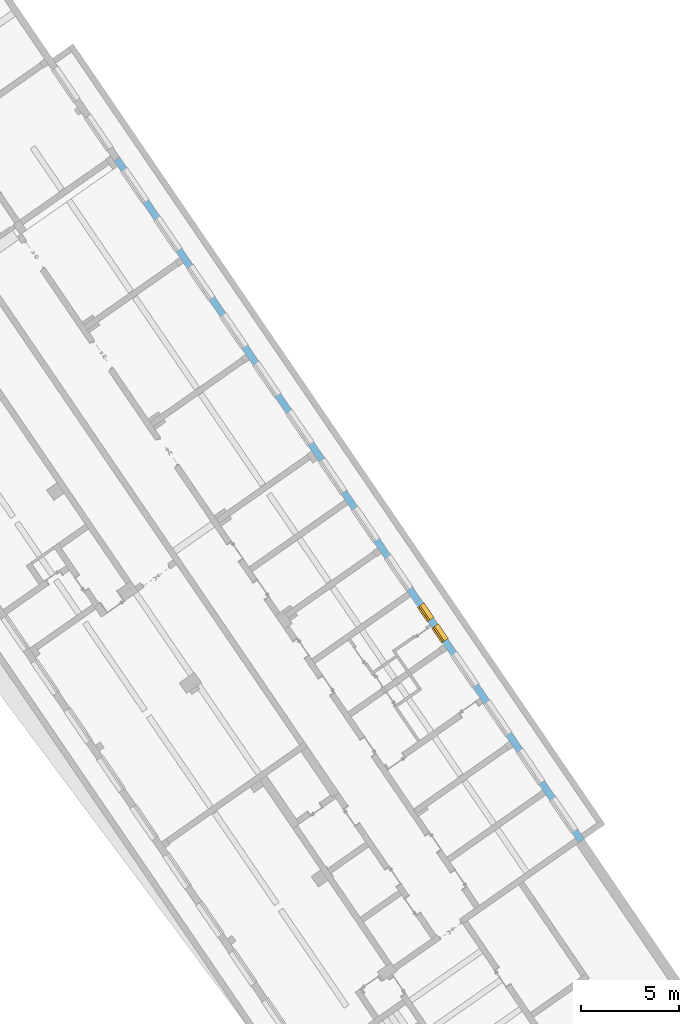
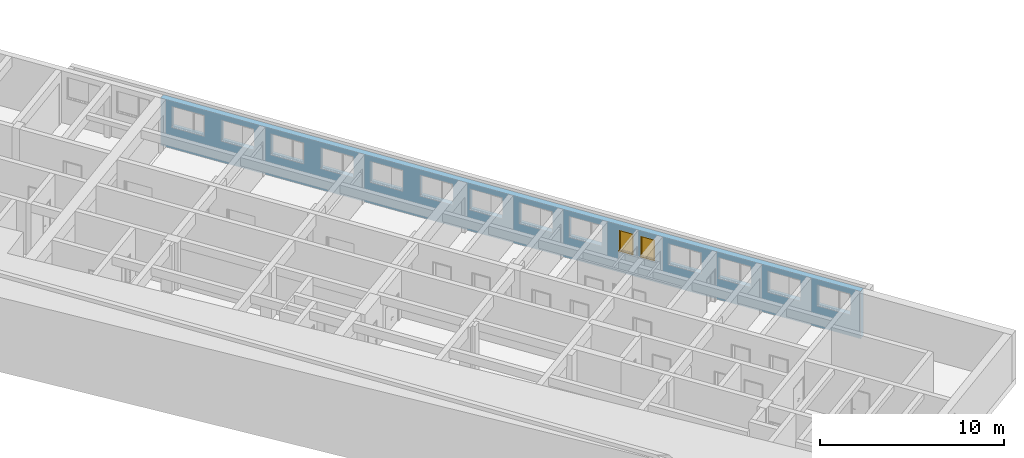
# One storey, part 57 of 112: 2 windows, 15 openings, plus 1 element that does not belong to this part.
"""IFC2X3 building model written with IfcOpenShell, lengths in millimetres."""

from ifc_helpers import new_model, entity, si_unit, converted_unit, derived_unit, direction, frame, frame_2d, origin, place, context, subcontext, project, spatial, polyline, rectangle, outline, extrude, faceted_brep, source, transform, mapped, material, material_list, layer, layer_set, layer_usage, type_object, type_shapes, element, fill, save


model = new_model("IFC2X3")

# Units and contexts
model_context = context("Model", 3, precision=0.01, world=origin(), true_north=direction((6.123031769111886e-17, 1.0)))
body_context = subcontext(model_context, "Body", "Model", "MODEL_VIEW")
ifc_project = project(units=[si_unit("LENGTHUNIT", "METRE", prefix="MILLI"), si_unit("AREAUNIT", "SQUARE_METRE"), si_unit("VOLUMEUNIT", "CUBIC_METRE"), converted_unit("PLANEANGLEUNIT", "DEGREE", entity("IfcRatioMeasure", 0.017453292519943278), si_unit("PLANEANGLEUNIT", "RADIAN"), dimensions=[0, 0, 0, 0, 0, 0, 0]), si_unit("MASSUNIT", "GRAM", prefix="KILO"), derived_unit("MASSDENSITYUNIT", [(si_unit("MASSUNIT", "GRAM", prefix="KILO"), 1), (si_unit("LENGTHUNIT", "METRE"), -3)]), derived_unit("MOMENTOFINERTIAUNIT", [(si_unit("LENGTHUNIT", "METRE"), 4)]), si_unit("TIMEUNIT", "SECOND"), si_unit("FREQUENCYUNIT", "HERTZ"), si_unit("THERMODYNAMICTEMPERATUREUNIT", "DEGREE_CELSIUS"), derived_unit("THERMALTRANSMITTANCEUNIT", [(si_unit("MASSUNIT", "GRAM", prefix="KILO"), 1), (si_unit("THERMODYNAMICTEMPERATUREUNIT", "KELVIN"), -1), (si_unit("TIMEUNIT", "SECOND"), -3)]), derived_unit("THERMALCONDUCTANCEUNIT", [(si_unit("MASSUNIT", "GRAM", prefix="KILO"), 1), (si_unit("LENGTHUNIT", "METRE"), 1), (si_unit("THERMODYNAMICTEMPERATUREUNIT", "KELVIN"), -1), (si_unit("TIMEUNIT", "SECOND"), -3)]), derived_unit("VOLUMETRICFLOWRATEUNIT", [(si_unit("LENGTHUNIT", "METRE"), 3), (si_unit("TIMEUNIT", "SECOND"), -1)]), derived_unit("MASSFLOWRATEUNIT", [(si_unit("MASSUNIT", "GRAM", prefix="KILO"), 1), (si_unit("TIMEUNIT", "SECOND"), -1)]), derived_unit("ROTATIONALFREQUENCYUNIT", [(si_unit("TIMEUNIT", "SECOND"), -1)]), si_unit("ELECTRICCURRENTUNIT", "AMPERE"), si_unit("ELECTRICVOLTAGEUNIT", "VOLT"), si_unit("POWERUNIT", "WATT"), converted_unit("FORCEUNIT", "KIP", entity("IfcRatioMeasure", 2.088543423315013e-05), si_unit("FORCEUNIT", "NEWTON"), dimensions=[1, 1, -2, 0, 0, 0, 0]), si_unit("ILLUMINANCEUNIT", "LUX"), si_unit("LUMINOUSFLUXUNIT", "LUMEN"), si_unit("LUMINOUSINTENSITYUNIT", "CANDELA"), derived_unit("USERDEFINED", [(si_unit("MASSUNIT", "GRAM", prefix="KILO"), -1), (si_unit("LENGTHUNIT", "METRE"), -2), (si_unit("TIMEUNIT", "SECOND"), 3), (si_unit("LUMINOUSFLUXUNIT", "LUMEN"), 1)]), derived_unit("USERDEFINED", [(si_unit("MASSUNIT", "GRAM", prefix="KILO"), 1), (si_unit("LENGTHUNIT", "METRE"), 3), (si_unit("TIMEUNIT", "SECOND"), -3), (si_unit("ELECTRICCURRENTUNIT", "AMPERE"), -2)]), derived_unit("USERDEFINED", [(si_unit("LENGTHUNIT", "METRE"), 2), (si_unit("TIMEUNIT", "SECOND"), -2)]), derived_unit("SOUNDPOWERUNIT", [(si_unit("MASSUNIT", "GRAM", prefix="KILO"), 1), (si_unit("LENGTHUNIT", "METRE"), 2), (si_unit("TIMEUNIT", "SECOND"), -3)]), derived_unit("SOUNDPRESSUREUNIT", [(si_unit("MASSUNIT", "GRAM", prefix="KILO"), 1), (si_unit("LENGTHUNIT", "METRE"), -1), (si_unit("TIMEUNIT", "SECOND"), -2)]), derived_unit("LINEARVELOCITYUNIT", [(si_unit("LENGTHUNIT", "METRE"), 1), (si_unit("TIMEUNIT", "SECOND"), -1)]), si_unit("PRESSUREUNIT", "PASCAL"), derived_unit("USERDEFINED", [(si_unit("LENGTHUNIT", "METRE"), -2), (si_unit("MASSUNIT", "GRAM", prefix="KILO"), 1), (si_unit("TIMEUNIT", "SECOND"), -2)]), derived_unit("LINEARFORCEUNIT", [(si_unit("MASSUNIT", "GRAM", prefix="KILO"), 1), (si_unit("LENGTHUNIT", "METRE"), 1), (si_unit("TIMEUNIT", "SECOND"), -2), (si_unit("LENGTHUNIT", "METRE"), -1)]), derived_unit("PLANARFORCEUNIT", [(si_unit("MASSUNIT", "GRAM", prefix="KILO"), 1), (si_unit("LENGTHUNIT", "METRE"), 1), (si_unit("TIMEUNIT", "SECOND"), -2), (si_unit("LENGTHUNIT", "METRE"), -2)]), derived_unit("SPECIFICHEATCAPACITYUNIT", [(si_unit("LENGTHUNIT", "METRE"), 2), (si_unit("TIMEUNIT", "SECOND"), -2), (si_unit("THERMODYNAMICTEMPERATUREUNIT", "KELVIN"), -1)]), derived_unit("VAPORPERMEABILITYUNIT", [(si_unit("TIMEUNIT", "SECOND"), 1), (si_unit("LENGTHUNIT", "METRE"), -1)]), derived_unit("DYNAMICVISCOSITYUNIT", [(si_unit("MASSUNIT", "GRAM", prefix="KILO"), 1), (si_unit("LENGTHUNIT", "METRE"), -1), (si_unit("TIMEUNIT", "SECOND"), -1)]), derived_unit("THERMALEXPANSIONCOEFFICIENTUNIT", [(si_unit("THERMODYNAMICTEMPERATUREUNIT", "KELVIN"), -1)])], contexts=[model_context])

# Site, building, storey
site_placement = place(None, frame((0.0, 0.0, 0.0), z_axis=(0.0, 0.0, 1.0), x_axis=(0.8191520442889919, 0.5735764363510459, 0.0)))
site = spatial("IfcSite", under=ifc_project, at=site_placement, Name="Default", CompositionType="ELEMENT")
building_placement = place(site_placement, origin())
building = spatial("IfcBuilding", under=site, at=building_placement, CompositionType="ELEMENT")
storey_placement = place(building_placement, frame((0.0, 0.0, -3600.0)))
storey = spatial("IfcBuildingStorey", under=building, at=storey_placement, Name="0.UG -3.60", CompositionType="ELEMENT", Elevation=-3600.0000000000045)

# Wall, openings, windows
ifc_material_1 = material(Name="Analytical Wall Surface_CJC")
ifc_layer = layer(ifc_material_1, 350.0)
ifc_layer_set = layer_set([ifc_layer], Name="Basic Wall:Wand_Aussen_35")
ifc_layer_usage = layer_usage(ifc_layer_set, "AXIS2", "NEGATIVE", 175.0)
wall_type = type_object("IfcWallType", Name="Basic Wall:Wand_Aussen_35", PredefinedType="STANDARD", material=ifc_layer_set)
wall_placement = place(storey_placement, frame((-205076.49299844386, 103546.35891435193, 300.0), z_axis=(0.0, 0.0, 1.0), x_axis=(-0.012729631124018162, -0.9999189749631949, 0.0)))
wall = element("IfcWallStandardCase", 1, at=wall_placement, inside=storey, type_object=wall_type, material=ifc_layer_usage, Name="Basic Wall:Wand_Aussen_35", ObjectType="Basic Wall:Wand_Aussen_35", context=body_context, shape_type="SweptSolid", body=[
    extrude(outline(polyline([(42280.653476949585, -175.0), (42276.197745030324, 175.0), (0.0, 175.0), (0.0, -175.0), (42280.653476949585, -175.0)])), origin(), (0.0, 0.0, 1.0), 3150.000000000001),
])
opening_1_placement = place(wall_placement, frame((29854.630429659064, 175.0, 1400.0)))
opening_1 = element("IfcOpeningElement", 2, at=opening_1_placement, cuts=wall, Name="Windows_Sgl_Plain:90x140:1", ObjectType="Opening", context=body_context, shape_type="SweptSolid", body=[
    extrude(rectangle(XDim=1400.000000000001, YDim=900.0000000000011, at=frame_2d((700.0000000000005, 450.0000000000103), x_axis=(-1.0, 0.0))), frame((0.0, 0.0, 0.0), z_axis=(0.0, -1.0, 0.0), x_axis=(0.0, 0.0, 1.0)), (0.0, 0.0, 1.0), 350.0),
])
opening_2_placement = place(wall_placement, frame((2652.2805292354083, 175.0, 1400.0)))
element("IfcOpeningElement", 3, at=opening_2_placement, cuts=wall, Name="Windows_Dbl_Plain:200x140:1", ObjectType="Opening", context=body_context, shape_type="SweptSolid", body=[
    extrude(rectangle(XDim=1400.0000000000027, YDim=1999.9999999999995, at=frame_2d((700.0000000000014, 1000.0000000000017), x_axis=(-1.0, 0.0))), frame((0.0, 0.0, 0.0), z_axis=(0.0, -1.0, 0.0), x_axis=(0.0, 0.0, 1.0)), (0.0, 0.0, 1.0), 350.0),
])
opening_3_placement = place(wall_placement, frame((5652.523622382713, 175.0, 1400.0)))
element("IfcOpeningElement", 4, at=opening_3_placement, cuts=wall, Name="Windows_Dbl_Plain:200x140:1", ObjectType="Opening", context=body_context, shape_type="SweptSolid", body=[
    extrude(rectangle(XDim=1400.0000000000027, YDim=1999.9999999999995, at=frame_2d((700.0000000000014, 1000.0000000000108), x_axis=(-1.0, 0.0))), frame((0.0, 0.0, 0.0), z_axis=(0.0, -1.0, 0.0), x_axis=(0.0, 0.0, 1.0)), (0.0, 0.0, 1.0), 350.0),
])
opening_4_placement = place(wall_placement, frame((8652.766715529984, 175.0, 1400.0)))
element("IfcOpeningElement", 5, at=opening_4_placement, cuts=wall, Name="Windows_Dbl_Plain:200x140:1", ObjectType="Opening", context=body_context, shape_type="SweptSolid", body=[
    extrude(rectangle(XDim=1400.0000000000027, YDim=1999.9999999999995, at=frame_2d((700.0000000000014, 1000.0000000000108), x_axis=(-1.0, 0.0))), frame((0.0, 0.0, 0.0), z_axis=(0.0, -1.0, 0.0), x_axis=(0.0, 0.0, 1.0)), (0.0, 0.0, 1.0), 350.0),
])
opening_5_placement = place(wall_placement, frame((11653.009808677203, 175.0, 1400.0)))
element("IfcOpeningElement", 6, at=opening_5_placement, cuts=wall, Name="Windows_Dbl_Plain:200x140:1", ObjectType="Opening", context=body_context, shape_type="SweptSolid", body=[
    extrude(rectangle(XDim=1400.0000000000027, YDim=1999.9999999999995, at=frame_2d((700.0000000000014, 1000.0000000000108), x_axis=(-1.0, 0.0))), frame((0.0, 0.0, 0.0), z_axis=(0.0, -1.0, 0.0), x_axis=(0.0, 0.0, 1.0)), (0.0, 0.0, 1.0), 350.0),
])
opening_6_placement = place(wall_placement, frame((14653.25290182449, 175.0, 1400.0)))
element("IfcOpeningElement", 7, at=opening_6_placement, cuts=wall, Name="Windows_Dbl_Plain:200x140:1", ObjectType="Opening", context=body_context, shape_type="SweptSolid", body=[
    extrude(rectangle(XDim=1400.0000000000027, YDim=1999.9999999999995, at=frame_2d((700.0000000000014, 1000.0000000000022), x_axis=(-1.0, 0.0))), frame((0.0, 0.0, 0.0), z_axis=(0.0, -1.0, 0.0), x_axis=(0.0, 0.0, 1.0)), (0.0, 0.0, 1.0), 350.0),
])
opening_7_placement = place(wall_placement, frame((17653.495995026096, 175.0, 1400.0)))
element("IfcOpeningElement", 8, at=opening_7_placement, cuts=wall, Name="Windows_Dbl_Plain:200x140:1", ObjectType="Opening", context=body_context, shape_type="SweptSolid", body=[
    extrude(rectangle(XDim=1400.0000000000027, YDim=1999.9999999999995, at=frame_2d((700.0000000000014, 1000.0000000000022), x_axis=(-1.0, 0.0))), frame((0.0, 0.0, 0.0), z_axis=(0.0, -1.0, 0.0), x_axis=(0.0, 0.0, 1.0)), (0.0, 0.0, 1.0), 350.0),
])
opening_8_placement = place(wall_placement, frame((20653.90113500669, 175.0, 1400.0)))
element("IfcOpeningElement", 9, at=opening_8_placement, cuts=wall, Name="Windows_Dbl_Plain:200x140:1", ObjectType="Opening", context=body_context, shape_type="SweptSolid", body=[
    extrude(rectangle(XDim=1400.0000000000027, YDim=1999.9999999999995, at=frame_2d((700.0000000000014, 1000.0000000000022), x_axis=(-1.0, 0.0))), frame((0.0, 0.0, 0.0), z_axis=(0.0, -1.0, 0.0), x_axis=(0.0, 0.0, 1.0)), (0.0, 0.0, 1.0), 350.0),
])
opening_9_placement = place(wall_placement, frame((23653.982181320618, 175.0, 1400.0)))
element("IfcOpeningElement", 10, at=opening_9_placement, cuts=wall, Name="Windows_Dbl_Plain:200x140:1", ObjectType="Opening", context=body_context, shape_type="SweptSolid", body=[
    extrude(rectangle(XDim=1400.0000000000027, YDim=1999.9999999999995, at=frame_2d((700.0000000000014, 1000.0000000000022), x_axis=(-1.0, 0.0))), frame((0.0, 0.0, 0.0), z_axis=(0.0, -1.0, 0.0), x_axis=(0.0, 0.0, 1.0)), (0.0, 0.0, 1.0), 350.0),
])
opening_10_placement = place(wall_placement, frame((26654.225274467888, 175.0, 1400.0)))
element("IfcOpeningElement", 11, at=opening_10_placement, cuts=wall, Name="Windows_Dbl_Plain:200x140:1", ObjectType="Opening", context=body_context, shape_type="SweptSolid", body=[
    extrude(rectangle(XDim=1400.0000000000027, YDim=1999.9999999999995, at=frame_2d((700.0000000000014, 1000.0000000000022), x_axis=(-1.0, 0.0))), frame((0.0, 0.0, 0.0), z_axis=(0.0, -1.0, 0.0), x_axis=(0.0, 0.0, 1.0)), (0.0, 0.0, 1.0), 350.0),
])
opening_11_placement = place(wall_placement, frame((32654.711460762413, 175.0, 1400.0)))
element("IfcOpeningElement", 12, at=opening_11_placement, cuts=wall, Name="Windows_Dbl_Plain:200x140:1", ObjectType="Opening", context=body_context, shape_type="SweptSolid", body=[
    extrude(rectangle(XDim=1400.0000000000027, YDim=1999.9999999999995, at=frame_2d((700.0000000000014, 1000.0000000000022), x_axis=(-1.0, 0.0))), frame((0.0, 0.0, 0.0), z_axis=(0.0, -1.0, 0.0), x_axis=(0.0, 0.0, 1.0)), (0.0, 0.0, 1.0), 350.0),
])
opening_12_placement = place(wall_placement, frame((35654.9545539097, 175.0, 1400.0)))
element("IfcOpeningElement", 13, at=opening_12_placement, cuts=wall, Name="Windows_Dbl_Plain:200x140:1", ObjectType="Opening", context=body_context, shape_type="SweptSolid", body=[
    extrude(rectangle(XDim=1400.0000000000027, YDim=1999.9999999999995, at=frame_2d((700.0000000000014, 1000.0000000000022), x_axis=(-1.0, 0.0))), frame((0.0, 0.0, 0.0), z_axis=(0.0, -1.0, 0.0), x_axis=(0.0, 0.0, 1.0)), (0.0, 0.0, 1.0), 350.0),
])
opening_13_placement = place(wall_placement, frame((38655.197647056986, 175.0, 1400.0)))
element("IfcOpeningElement", 14, at=opening_13_placement, cuts=wall, Name="Windows_Dbl_Plain:200x140:1", ObjectType="Opening", context=body_context, shape_type="SweptSolid", body=[
    extrude(rectangle(XDim=1400.0000000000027, YDim=1999.9999999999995, at=frame_2d((700.0000000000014, 1000.0000000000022), x_axis=(-1.0, 0.0))), frame((0.0, 0.0, 0.0), z_axis=(0.0, -1.0, 0.0), x_axis=(0.0, 0.0, 1.0)), (0.0, 0.0, 1.0), 350.0),
])
opening_14_placement = place(wall_placement, frame((41655.440740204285, 175.0, 1400.0)))
element("IfcOpeningElement", 15, at=opening_14_placement, cuts=wall, Name="Windows_Dbl_Plain:200x140:1", ObjectType="Opening", context=body_context, shape_type="SweptSolid", body=[
    extrude(rectangle(XDim=1400.0000000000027, YDim=1999.9999999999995, at=frame_2d((700.0000000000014, 999.9999999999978), x_axis=(-1.0, 0.0))), frame((0.0, 0.0, 0.0), z_axis=(0.0, -1.0, 0.0), x_axis=(0.0, 0.0, 1.0)), (0.0, 0.0, 1.0), 350.0),
])
opening_15_placement = place(wall_placement, frame((28554.468367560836, 175.0, 1400.0)))
opening_15 = element("IfcOpeningElement", 16, at=opening_15_placement, cuts=wall, Name="Windows_Sgl_Plain:90x140:1", ObjectType="Opening", context=body_context, shape_type="SweptSolid", body=[
    extrude(rectangle(XDim=1400.000000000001, YDim=900.0000000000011, at=frame_2d((700.0000000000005, 450.00000000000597), x_axis=(-1.0, 0.0))), frame((0.0, 0.0, 0.0), z_axis=(0.0, -1.0, 0.0), x_axis=(0.0, 0.0, 1.0)), (0.0, 0.0, 1.0), 350.0),
])
ifc_material_2 = material(Name="Window Frame")
ifc_material_3 = material(Name="Glass")
ifc_material_list = material_list([ifc_material_2, ifc_material_3])
window_style = type_object("IfcWindowStyle", Name="Windows_Sgl_Plain:90x140", ConstructionType="NOTDEFINED", OperationType="SINGLE_PANEL", ParameterTakesPrecedence=False, Sizeable=False, material=ifc_material_list)
shared_shape = source(origin(), body_context, "Body", "Brep", [
    faceted_brep([(-25.0, -25.0, 0.0), (-25.0, 0.0, 0.0), (0.0, 0.0, 0.0), (0.0, 217.0, 0.0), (900.0, 217.0, 0.0), (900.0, 0.0, 0.0), (925.0, 0.0, 0.0), (925.0, -25.0, 0.0), (-25.0, -25.0, 25.0), (925.0, -25.0, 25.0), (925.0, 0.0, 25.0), (900.0, 0.0, 25.0), (900.0, 217.0, 25.0), (0.0, 217.0, 25.0), (0.0, 0.0, 25.0), (-25.0, 0.0, 25.0)], [[[0, 1, 2, 3, 4, 5, 6, 7]], [[8, 9, 10, 11, 12, 13, 14, 15]], [[1, 0, 8, 15]], [[2, 1, 15, 14]], [[3, 2, 14, 13]], [[4, 3, 13, 12]], [[5, 4, 12, 11]], [[6, 5, 11, 10]], [[7, 6, 10, 9]], [[0, 7, 9, 8]]]),
    faceted_brep([(0.0, 217.0, 0.0), (900.0, 217.0, 0.0), (900.0, 217.0, 1400.0), (0.0, 217.0, 1400.0), (60.0, 217.0, 1340.0), (840.0, 217.0, 1340.0), (840.0, 217.0, 75.0), (60.0, 217.0, 75.0), (0.0, 300.0, 1400.0), (0.0, 300.0, 51.0), (0.0, 315.0, 49.68767004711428), (0.0, 315.0, 44.744967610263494), (0.0, 387.50000000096, 33.80888466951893), (0.0, 387.50000000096, 0.0), (900.0, 300.0, 1400.0), (900.0, 300.0, 51.0), (40.0, 300.0, 1360.0), (40.0, 300.0, 63.0), (860.0, 300.0, 63.0), (860.0, 300.0, 1360.0), (40.0, 235.0, 1360.0), (40.0, 235.0, 63.0), (60.0, 235.0, 1340.0), (60.0, 235.0, 75.0), (840.0, 235.0, 75.0), (840.0, 235.0, 1340.0), (860.0, 235.0, 1360.0), (860.0, 235.0, 63.0), (900.0, 387.50000000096, 0.0), (900.0, 387.5000000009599, 33.8088846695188), (900.0, 315.0, 44.74496761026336), (900.0, 315.0, 49.687670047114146)], [[[0, 1, 2, 3], [4, 5, 6, 7]], [[0, 3, 8, 9, 10, 11, 12, 13]], [[9, 8, 14, 15], [16, 17, 18, 19]], [[17, 16, 20, 21]], [[22, 23, 24, 25], [20, 26, 27, 21]], [[22, 4, 7, 23]], [[3, 2, 14, 8]], [[16, 19, 26, 20]], [[5, 4, 22, 25]], [[15, 14, 2, 1, 28, 29, 30, 31]], [[19, 18, 27, 26]], [[5, 25, 24, 6]], [[28, 1, 0, 13]], [[29, 28, 13, 12]], [[30, 29, 12, 11]], [[31, 30, 11, 10]], [[15, 31, 10, 9]], [[21, 27, 18, 17]], [[7, 6, 24, 23]]], outer=[[True, False], [True], [True, False], [True], [False, True], [True], [True], [True], [True], [True], [True], [True], [True], [True], [True], [True], [True], [True], [True]]),
    faceted_brep([(70.0, 264.0, 93.0), (830.0, 264.0, 93.0), (830.0, 264.0, 1330.0), (70.0, 264.0, 1330.0), (70.0, 288.0, 93.0), (70.0, 288.0, 1330.0), (830.0, 288.0, 1330.0), (830.0, 288.0, 93.0)], [[[0, 1, 2, 3]], [[4, 5, 6, 7]], [[1, 0, 4, 7]], [[2, 1, 7, 6]], [[3, 2, 6, 5]], [[0, 3, 5, 4]]]),
    faceted_brep([(30.0, 300.0, 1370.0), (30.0, 305.7735026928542, 1370.0), (30.0, 305.7735026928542, 53.0), (30.0, 300.0, 53.0), (40.0, 235.0, 1360.0), (40.0, 300.0, 1360.0), (40.0, 300.0, 63.0), (40.0, 235.0, 63.0), (80.0, 249.49289985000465, 1320.0), (69.85196227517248, 235.0, 1330.1480377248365), (69.85196227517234, 235.0, 92.85196227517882), (80.0, 249.4928998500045, 103.0), (80.0, 264.0, 1320.0), (80.0, 264.0, 103.0), (70.0, 288.0, 1330.0), (70.0, 264.0, 1330.0), (70.0, 264.0, 93.0), (70.0, 288.0, 93.0), (80.0, 305.7735026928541, 1320.0), (80.0, 288.0, 1320.0), (80.0, 288.0, 103.0), (80.0, 305.7735026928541, 103.0), (62.55424519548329, 311.54700538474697, 1337.4457548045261), (62.554245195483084, 311.54700538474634, 85.55424519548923), (40.784609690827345, 311.54700538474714, 1359.215390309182), (40.784609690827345, 311.5470053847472, 63.78460969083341), (870.0, 305.7735026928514, 53.0), (870.0, 300.0, 53.0), (860.0, 300.0, 63.0), (860.0, 235.0, 63.0), (830.1480377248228, 235.0, 92.85196227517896), (820.0, 249.4928998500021, 103.0), (820.0, 264.0, 103.0), (830.0, 264.0, 93.0), (830.0, 288.0, 93.0), (820.0, 288.0, 103.0), (820.0, 305.77350269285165, 103.0), (837.4457548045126, 311.5470053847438, 85.5542451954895), (859.2153903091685, 311.5470053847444, 63.78460969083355), (870.0, 305.7735026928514, 1370.0), (870.0, 300.0, 1370.0), (860.0, 300.0, 1360.0), (860.0, 235.0, 1360.0), (830.1480377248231, 235.0, 1330.148037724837), (820.0, 249.4928998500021, 1320.0), (820.0, 264.0, 1320.0), (830.0, 264.0, 1330.0), (830.0, 288.0, 1330.0), (820.0, 288.0, 1320.0), (820.0, 305.77350269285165, 1320.0), (837.445754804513, 311.5470053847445, 1337.4457548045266), (859.2153903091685, 311.5470053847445, 1359.2153903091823)], [[[0, 1, 2, 3]], [[4, 5, 6, 7]], [[8, 9, 10, 11]], [[12, 8, 11, 13]], [[14, 15, 16, 17]], [[18, 19, 20, 21]], [[22, 18, 21, 23]], [[1, 24, 25, 2]], [[3, 2, 26, 27]], [[7, 6, 28, 29]], [[11, 10, 30, 31]], [[13, 11, 31, 32]], [[17, 16, 33, 34]], [[21, 20, 35, 36]], [[23, 21, 36, 37]], [[2, 25, 38, 26]], [[27, 26, 39, 40]], [[29, 28, 41, 42]], [[31, 30, 43, 44]], [[32, 31, 44, 45]], [[34, 33, 46, 47]], [[36, 35, 48, 49]], [[37, 36, 49, 50]], [[26, 38, 51, 39]], [[40, 39, 1, 0]], [[3, 27, 40, 0], [5, 41, 28, 6]], [[42, 41, 5, 4]], [[7, 29, 42, 4], [9, 43, 30, 10]], [[44, 43, 9, 8]], [[45, 44, 8, 12]], [[13, 32, 45, 12], [15, 46, 33, 16]], [[47, 46, 15, 14]], [[17, 34, 47, 14], [19, 48, 35, 20]], [[49, 48, 19, 18]], [[50, 49, 18, 22]], [[23, 37, 50, 22], [24, 51, 38, 25]], [[39, 51, 24, 1]]], outer=[[True], [True], [True], [True], [True], [True], [True], [True], [True], [True], [True], [True], [True], [True], [True], [True], [True], [True], [True], [True], [True], [True], [True], [True], [True], [True, False], [True], [True, False], [True], [True], [False, True], [True], [True, False], [True], [True], [False, True], [True]]),
])
type_shapes(window_style, [shared_shape])
window_1_placement = place(opening_1_placement, frame((0.0, 0.0, 0.0), z_axis=(0.0, 0.0, 1.0), x_axis=(-1.0, 0.0, 0.0)))
window_1 = element("IfcWindow", 17, at=window_1_placement, inside=storey, type_object=window_style, material=ifc_material_list, Name="Windows_Sgl_Plain:90x140", ObjectType="Windows_Sgl_Plain:90x140", OverallHeight=1400.000000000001, OverallWidth=900.000000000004, context=body_context, shape_type="MappedRepresentation", body=[
    mapped(shared_shape, transform((0.0, 0.0, 0.0), scale=1.0)),
])
fill(opening_1, window_1)
window_2_placement = place(opening_15_placement, frame((0.0, 0.0, 0.0), z_axis=(0.0, 0.0, 1.0), x_axis=(-1.0, 0.0, 0.0)))
window_2 = element("IfcWindow", 18, at=window_2_placement, inside=storey, type_object=window_style, material=ifc_material_list, Name="Windows_Sgl_Plain:90x140", ObjectType="Windows_Sgl_Plain:90x140", OverallHeight=1400.000000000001, OverallWidth=899.9999999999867, context=body_context, shape_type="MappedRepresentation", body=[
    mapped(shared_shape, transform((0.0, 0.0, 0.0), scale=1.0)),
])
fill(opening_15, window_2)

save(model, "model.ifc")
